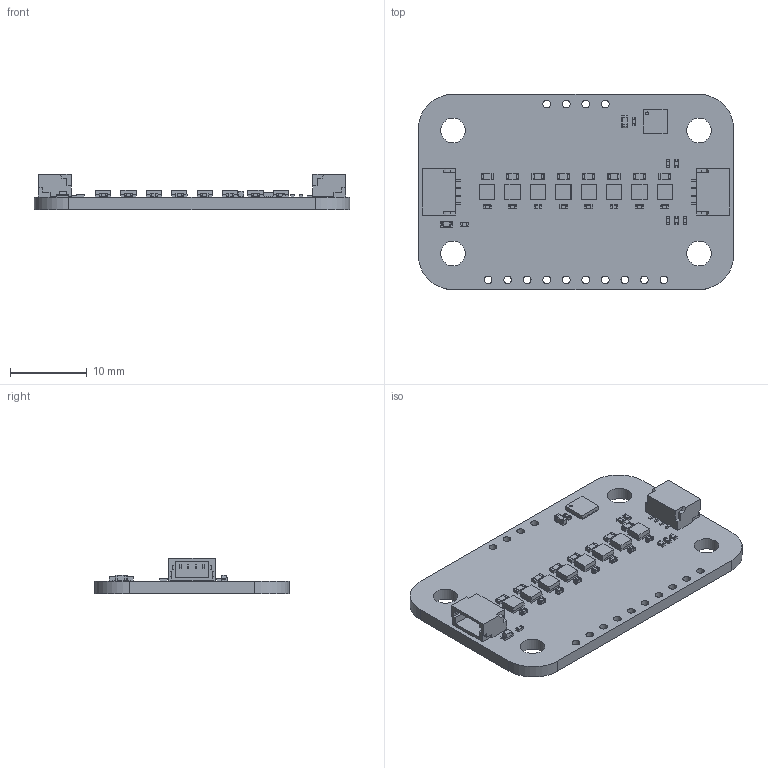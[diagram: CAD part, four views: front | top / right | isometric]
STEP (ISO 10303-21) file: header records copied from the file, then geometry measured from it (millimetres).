
FILE_DESCRIPTION(('Open CASCADE Model'),'2;1');
FILE_NAME('Open CASCADE Shape Model','2024-06-27T16:25:27',('Author'),( 'Open CASCADE'),'Open CASCADE STEP processor 7.5','Open CASCADE 7.5' ,'Unknown');
FILE_SCHEMA(('AUTOMOTIVE_DESIGN { 1 0 10303 214 1 1 1 1 }'));
Length unit declared in the file: millimetre
Products named in the file (54): PCB; Board; Open CASCADE STEP translator 7.5 15.1.1; R9; RES-0402; C4; CAP-0603; C3; CAP-0402; R10; R6; R11; R7; U1; 7552721664; Open CASCADE STEP translator 7.5 16.1; Body; Open CASCADE STEP translator 7.5 16.2.1; Pin Shape; Open CASCADE STEP translator 7.5 16.3.1; J1; SM04B-SRSS-TB_RGB12040119; J2; D1; HSMx-190; R1; R15_8; RES-0603; R15_7; R15_6; R15_5; R15_4; R15_3; R15_2; R15_1; DL1_8; APA102 2020 LED; Component1; Open CASCADE STEP translator 7.5 15.22.1.2; DL1_7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
Assembly tree (100 placements, depth 5):
  PCB
    Board
      Open CASCADE STEP translator 7.5 15.1.1
    R9
      RES-0402
    C4
      CAP-0603
    C3
      CAP-0402
    R10
      RES-0402
    R6
      RES-0402
    R11
      RES-0402
    R7
      RES-0402
    U1
      7552721664
        Open CASCADE STEP translator 7.5 16.1
        Body
          Open CASCADE STEP translator 7.5 16.2.1
        Pin Shape  x20
          Open CASCADE STEP translator 7.5 16.3.1
    J1
      SM04B-SRSS-TB_RGB12040119
    J2
      SM04B-SRSS-TB_RGB12040119
    D1
      HSMx-190
    R1
      RES-0402
    R15_8
      RES-0603
    R15_7
      RES-0603
    R15_6
      RES-0603
    R15_5
      RES-0603
    R15_4
      RES-0603
    R15_3
      RES-0603
    R15_2
      RES-0603
    R15_1
      RES-0603
    DL1_8
      APA102 2020 LED
        Component1
        Open CASCADE STEP translator 7.5 15.22.1.2
    DL1_7
      APA102 2020 LED
        Component1
        Open CASCADE STEP translator 7.5 15.22.1.2
    DL1_6
      APA102 2020 LED
        Component1
        Open CASCADE STEP translator 7.5 15.22.1.2
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Bounding box: 41 x 25.36 x 4.58 mm (x, y, z)
Volume: 1705.8 mm3; surface area: 2976.9 mm2
Topology: 161 solids, 162 shells, 2331 faces, 5387 edges, 3307 vertices
Faces by surface type: plane 1785, cylinder 378, sphere 84, bspline 80, torus 4
Full cylindrical faces by diameter (mm): 0.07 x1, 0.08 x8, 0.388 x1, 1 x14, 3.2 x4
Entity records: 16674 total; most frequent: CARTESIAN_POINT 2956, DIRECTION 2486, ORIENTED_EDGE 2323, EDGE_CURVE 1162, LINE 912, VECTOR 912, AXIS2_PLACEMENT_3D 787, VERTEX_POINT 731
